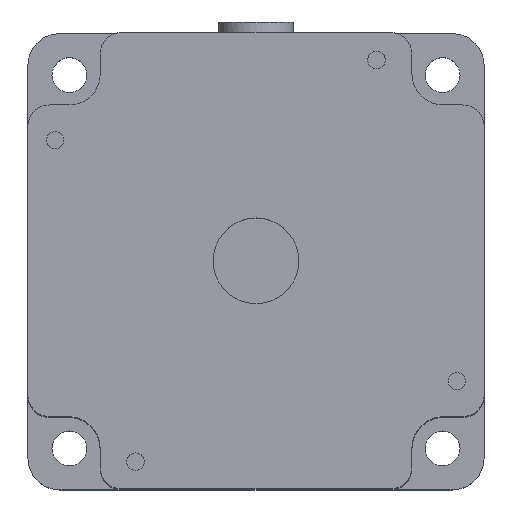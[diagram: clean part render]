
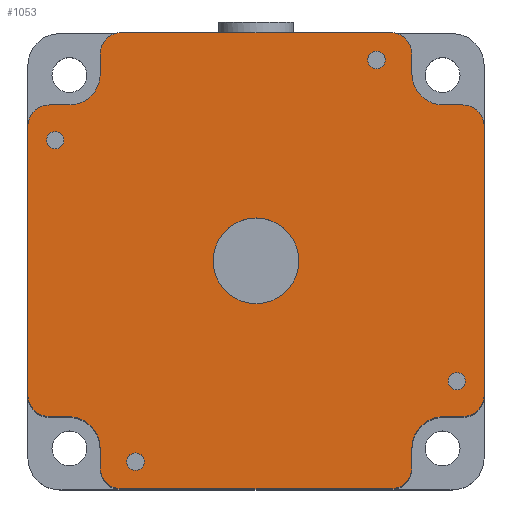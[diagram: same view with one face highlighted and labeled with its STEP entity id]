
A CAD part, top view. The second image highlights one B-rep face of the part: STEP entity #1053.
In plain terms, the highlighted planar face has unit normal (0, 0, 1).
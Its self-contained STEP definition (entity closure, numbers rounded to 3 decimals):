
#1053=ADVANCED_FACE('',(#6992,#6994,#6996,#6998,#7000,#7002),#7004,.T.);
#6992=FACE_BOUND('',#6993,.T.);
#6993=EDGE_LOOP('',(#11879,#11880,#11881,#11882,#11883,#11884,#11885,#11886,#11887,
#11888,#11889,#11890,#11891,#11892,#11893,#11894,#11895,#11896,#11897,#11898,#11899,
#11900,#11901,#11902));
#6994=FACE_BOUND('',#6995,.T.);
#6995=EDGE_LOOP('',(#11903));
#6996=FACE_BOUND('',#6997,.T.);
#6997=EDGE_LOOP('',(#11904));
#6998=FACE_BOUND('',#6999,.T.);
#6999=EDGE_LOOP('',(#11905));
#7000=FACE_BOUND('',#7001,.T.);
#7001=EDGE_LOOP('',(#11906));
#7002=FACE_BOUND('',#7003,.T.);
#7003=EDGE_LOOP('',(#11907));
#7004=PLANE('',#7005);
#7005=AXIS2_PLACEMENT_3D('',#7006,#7007,#7008);
#7006=CARTESIAN_POINT('',(0.,0.,113.));
#7007=DIRECTION('',(0.,0.,1.));
#7008=DIRECTION('',(1.,0.,0.));
#11879=ORIENTED_EDGE('',*,*,#15120,.F.);
#11880=ORIENTED_EDGE('',*,*,#15118,.T.);
#11881=ORIENTED_EDGE('',*,*,#15116,.F.);
#11882=ORIENTED_EDGE('',*,*,#15114,.T.);
#11883=ORIENTED_EDGE('',*,*,#15112,.T.);
#11884=ORIENTED_EDGE('',*,*,#15110,.T.);
#11885=ORIENTED_EDGE('',*,*,#15108,.F.);
#11886=ORIENTED_EDGE('',*,*,#15106,.T.);
#11887=ORIENTED_EDGE('',*,*,#15152,.F.);
#11888=ORIENTED_EDGE('',*,*,#15150,.T.);
#11889=ORIENTED_EDGE('',*,*,#15148,.T.);
#11890=ORIENTED_EDGE('',*,*,#15146,.T.);
#11891=ORIENTED_EDGE('',*,*,#15144,.F.);
#11892=ORIENTED_EDGE('',*,*,#15142,.T.);
#11893=ORIENTED_EDGE('',*,*,#15140,.F.);
#11894=ORIENTED_EDGE('',*,*,#15138,.T.);
#11895=ORIENTED_EDGE('',*,*,#15136,.T.);
#11896=ORIENTED_EDGE('',*,*,#15134,.T.);
#11897=ORIENTED_EDGE('',*,*,#15132,.F.);
#11898=ORIENTED_EDGE('',*,*,#15130,.T.);
#11899=ORIENTED_EDGE('',*,*,#15128,.F.);
#11900=ORIENTED_EDGE('',*,*,#15126,.T.);
#11901=ORIENTED_EDGE('',*,*,#15124,.T.);
#11902=ORIENTED_EDGE('',*,*,#15122,.T.);
#11903=ORIENTED_EDGE('',*,*,#15555,.T.);
#11904=ORIENTED_EDGE('',*,*,#15556,.T.);
#11905=ORIENTED_EDGE('',*,*,#15557,.T.);
#11906=ORIENTED_EDGE('',*,*,#15558,.T.);
#11907=ORIENTED_EDGE('',*,*,#15559,.T.);
#15106=EDGE_CURVE('',#17122,#17120,#17123,.T.);
#15108=EDGE_CURVE('',#17122,#17125,#17126,.T.);
#15110=EDGE_CURVE('',#17128,#17125,#17129,.F.);
#15112=EDGE_CURVE('',#17131,#17128,#17132,.F.);
#15114=EDGE_CURVE('',#17134,#17131,#17135,.F.);
#15116=EDGE_CURVE('',#17134,#17137,#17138,.T.);
#15118=EDGE_CURVE('',#17140,#17137,#17141,.T.);
#15120=EDGE_CURVE('',#17140,#17143,#17144,.F.);
#15122=EDGE_CURVE('',#17146,#17143,#17147,.F.);
#15124=EDGE_CURVE('',#17149,#17146,#17150,.F.);
#15126=EDGE_CURVE('',#17152,#17149,#17153,.F.);
#15128=EDGE_CURVE('',#17152,#17155,#17156,.T.);
#15130=EDGE_CURVE('',#17158,#17155,#17159,.T.);
#15132=EDGE_CURVE('',#17158,#17161,#17162,.F.);
#15134=EDGE_CURVE('',#17164,#17161,#17165,.F.);
#15136=EDGE_CURVE('',#17167,#17164,#17168,.F.);
#15138=EDGE_CURVE('',#17170,#17167,#17171,.F.);
#15140=EDGE_CURVE('',#17170,#17173,#17174,.T.);
#15142=EDGE_CURVE('',#17176,#17173,#17177,.T.);
#15144=EDGE_CURVE('',#17176,#17179,#17180,.T.);
#15146=EDGE_CURVE('',#17182,#17179,#17183,.F.);
#15148=EDGE_CURVE('',#17185,#17182,#17186,.F.);
#15150=EDGE_CURVE('',#17188,#17185,#17189,.F.);
#15152=EDGE_CURVE('',#17188,#17120,#17191,.T.);
#15555=EDGE_CURVE('',#17996,#17996,#17997,.F.);
#15556=EDGE_CURVE('',#17998,#17998,#17999,.F.);
#15557=EDGE_CURVE('',#18000,#18000,#18001,.F.);
#15558=EDGE_CURVE('',#18002,#18002,#18003,.F.);
#15559=EDGE_CURVE('',#18004,#18004,#18005,.F.);
#17120=VERTEX_POINT('',#20911);
#17122=VERTEX_POINT('',#20915);
#17123=LINE('',#20916,#20917);
#17125=VERTEX_POINT('',#20922);
#17126=CIRCLE('',#20923,4.);
#17128=VERTEX_POINT('',#20930);
#17129=LINE('',#20931,#20932);
#17131=VERTEX_POINT('',#20937);
#17132=CIRCLE('',#20938,5.9);
#17134=VERTEX_POINT('',#20945);
#17135=LINE('',#20946,#20947);
#17137=VERTEX_POINT('',#20952);
#17138=CIRCLE('',#20953,4.);
#17140=VERTEX_POINT('',#20960);
#17141=LINE('',#20961,#20962);
#17143=VERTEX_POINT('',#20967);
#17144=CIRCLE('',#20968,4.);
#17146=VERTEX_POINT('',#20975);
#17147=LINE('',#20976,#20977);
#17149=VERTEX_POINT('',#20982);
#17150=CIRCLE('',#20983,5.9);
#17152=VERTEX_POINT('',#20990);
#17153=LINE('',#20991,#20992);
#17155=VERTEX_POINT('',#20997);
#17156=CIRCLE('',#20998,4.);
#17158=VERTEX_POINT('',#21005);
#17159=LINE('',#21006,#21007);
#17161=VERTEX_POINT('',#21012);
#17162=CIRCLE('',#21013,4.);
#17164=VERTEX_POINT('',#21020);
#17165=LINE('',#21021,#21022);
#17167=VERTEX_POINT('',#21027);
#17168=CIRCLE('',#21028,5.9);
#17170=VERTEX_POINT('',#21035);
#17171=LINE('',#21036,#21037);
#17173=VERTEX_POINT('',#21042);
#17174=CIRCLE('',#21043,4.);
#17176=VERTEX_POINT('',#21050);
#17177=LINE('',#21051,#21052);
#17179=VERTEX_POINT('',#21057);
#17180=CIRCLE('',#21058,4.);
#17182=VERTEX_POINT('',#21065);
#17183=LINE('',#21066,#21067);
#17185=VERTEX_POINT('',#21072);
#17186=CIRCLE('',#21073,5.752);
#17188=VERTEX_POINT('',#21080);
#17189=LINE('',#21081,#21082);
#17191=CIRCLE('',#21087,4.);
#17996=VERTEX_POINT('',#22900);
#17997=CIRCLE('',#22901,1.621);
#17998=VERTEX_POINT('',#22905);
#17999=CIRCLE('',#22906,1.621);
#18000=VERTEX_POINT('',#22910);
#18001=CIRCLE('',#22911,1.621);
#18002=VERTEX_POINT('',#22915);
#18003=CIRCLE('',#22916,1.621);
#18004=VERTEX_POINT('',#22920);
#18005=CIRCLE('',#22921,8.);
#20911=CARTESIAN_POINT('',(-25.1,42.6,113.));
#20915=CARTESIAN_POINT('',(25.1,42.6,113.));
#20916=CARTESIAN_POINT('',(25.1,42.6,113.));
#20917=VECTOR('',#20918,1.);
#20918=DIRECTION('',(-1.,0.,0.));
#20922=CARTESIAN_POINT('',(29.1,38.6,113.));
#20923=AXIS2_PLACEMENT_3D('',#20924,#20925,#20926);
#20924=CARTESIAN_POINT('',(25.1,38.6,113.));
#20925=DIRECTION('',(0.,0.,-1.));
#20926=DIRECTION('',(0.,1.,0.));
#20930=CARTESIAN_POINT('',(29.1,35.,113.));
#20931=CARTESIAN_POINT('',(29.1,38.6,113.));
#20932=VECTOR('',#20933,1.);
#20933=DIRECTION('',(0.,-1.,0.));
#20937=CARTESIAN_POINT('',(35.,29.1,113.));
#20938=AXIS2_PLACEMENT_3D('',#20939,#20940,#20941);
#20939=CARTESIAN_POINT('',(35.,35.,113.));
#20940=DIRECTION('',(0.,0.,1.));
#20941=DIRECTION('',(-1.,0.,0.));
#20945=CARTESIAN_POINT('',(38.6,29.1,113.));
#20946=CARTESIAN_POINT('',(35.,29.1,113.));
#20947=VECTOR('',#20948,1.);
#20948=DIRECTION('',(1.,0.,0.));
#20952=CARTESIAN_POINT('',(42.6,25.1,113.));
#20953=AXIS2_PLACEMENT_3D('',#20954,#20955,#20956);
#20954=CARTESIAN_POINT('',(38.6,25.1,113.));
#20955=DIRECTION('',(0.,0.,-1.));
#20956=DIRECTION('',(0.,1.,0.));
#20960=CARTESIAN_POINT('',(42.6,-25.1,113.));
#20961=CARTESIAN_POINT('',(42.6,-25.1,113.));
#20962=VECTOR('',#20963,1.);
#20963=DIRECTION('',(0.,1.,0.));
#20967=CARTESIAN_POINT('',(38.6,-29.1,113.));
#20968=AXIS2_PLACEMENT_3D('',#20969,#20970,#20971);
#20969=CARTESIAN_POINT('',(38.6,-25.1,113.));
#20970=DIRECTION('',(0.,0.,1.));
#20971=DIRECTION('',(0.,-1.,0.));
#20975=CARTESIAN_POINT('',(35.,-29.1,113.));
#20976=CARTESIAN_POINT('',(38.6,-29.1,113.));
#20977=VECTOR('',#20978,1.);
#20978=DIRECTION('',(-1.,0.,0.));
#20982=CARTESIAN_POINT('',(29.1,-35.,113.));
#20983=AXIS2_PLACEMENT_3D('',#20984,#20985,#20986);
#20984=CARTESIAN_POINT('',(35.,-35.,113.));
#20985=DIRECTION('',(0.,-0.,1.));
#20986=DIRECTION('',(0.,1.,0.));
#20990=CARTESIAN_POINT('',(29.1,-38.6,113.));
#20991=CARTESIAN_POINT('',(29.1,-35.,113.));
#20992=VECTOR('',#20993,1.);
#20993=DIRECTION('',(0.,-1.,0.));
#20997=CARTESIAN_POINT('',(25.1,-42.6,113.));
#20998=AXIS2_PLACEMENT_3D('',#20999,#21000,#21001);
#20999=CARTESIAN_POINT('',(25.1,-38.6,113.));
#21000=DIRECTION('',(0.,0.,-1.));
#21001=DIRECTION('',(1.,0.,0.));
#21005=CARTESIAN_POINT('',(-25.1,-42.6,113.));
#21006=CARTESIAN_POINT('',(-25.1,-42.6,113.));
#21007=VECTOR('',#21008,1.);
#21008=DIRECTION('',(1.,0.,0.));
#21012=CARTESIAN_POINT('',(-29.1,-38.6,113.));
#21013=AXIS2_PLACEMENT_3D('',#21014,#21015,#21016);
#21014=CARTESIAN_POINT('',(-25.1,-38.6,113.));
#21015=DIRECTION('',(0.,0.,1.));
#21016=DIRECTION('',(-1.,0.,0.));
#21020=CARTESIAN_POINT('',(-29.1,-35.,113.));
#21021=CARTESIAN_POINT('',(-29.1,-38.6,113.));
#21022=VECTOR('',#21023,1.);
#21023=DIRECTION('',(0.,1.,0.));
#21027=CARTESIAN_POINT('',(-35.,-29.1,113.));
#21028=AXIS2_PLACEMENT_3D('',#21029,#21030,#21031);
#21029=CARTESIAN_POINT('',(-35.,-35.,113.));
#21030=DIRECTION('',(0.,0.,1.));
#21031=DIRECTION('',(1.,0.,0.));
#21035=CARTESIAN_POINT('',(-38.6,-29.1,113.));
#21036=CARTESIAN_POINT('',(-35.,-29.1,113.));
#21037=VECTOR('',#21038,1.);
#21038=DIRECTION('',(-1.,0.,0.));
#21042=CARTESIAN_POINT('',(-42.6,-25.1,113.));
#21043=AXIS2_PLACEMENT_3D('',#21044,#21045,#21046);
#21044=CARTESIAN_POINT('',(-38.6,-25.1,113.));
#21045=DIRECTION('',(0.,0.,-1.));
#21046=DIRECTION('',(0.,-1.,0.));
#21050=CARTESIAN_POINT('',(-42.6,25.1,113.));
#21051=CARTESIAN_POINT('',(-42.6,25.1,113.));
#21052=VECTOR('',#21053,1.);
#21053=DIRECTION('',(0.,-1.,0.));
#21057=CARTESIAN_POINT('',(-38.6,29.1,113.));
#21058=AXIS2_PLACEMENT_3D('',#21059,#21060,#21061);
#21059=CARTESIAN_POINT('',(-38.6,25.1,113.));
#21060=DIRECTION('',(0.,0.,-1.));
#21061=DIRECTION('',(-1.,0.,0.));
#21065=CARTESIAN_POINT('',(-35.,29.1,113.));
#21066=CARTESIAN_POINT('',(-38.6,29.1,113.));
#21067=VECTOR('',#21068,1.);
#21068=DIRECTION('',(1.,0.,0.));
#21072=CARTESIAN_POINT('',(-29.1,35.,113.));
#21073=AXIS2_PLACEMENT_3D('',#21074,#21075,#21076);
#21074=CARTESIAN_POINT('',(-34.85,34.85,113.));
#21075=DIRECTION('',(-0.,0.,1.));
#21076=DIRECTION('',(-0.026,-1.,0.));
#21080=CARTESIAN_POINT('',(-29.1,38.6,113.));
#21081=CARTESIAN_POINT('',(-29.1,35.,113.));
#21082=VECTOR('',#21083,1.);
#21083=DIRECTION('',(0.,1.,0.));
#21087=AXIS2_PLACEMENT_3D('',#21088,#21089,#21090);
#21088=CARTESIAN_POINT('',(-25.1,38.6,113.));
#21089=DIRECTION('',(0.,0.,-1.));
#21090=DIRECTION('',(-1.,0.,0.));
#22900=CARTESIAN_POINT('',(24.121,37.5,113.));
#22901=AXIS2_PLACEMENT_3D('',#22902,#22903,#22904);
#22902=CARTESIAN_POINT('',(22.5,37.5,113.));
#22903=DIRECTION('',(0.,0.,1.));
#22904=DIRECTION('',(1.,0.,0.));
#22905=CARTESIAN_POINT('',(-35.879,22.5,113.));
#22906=AXIS2_PLACEMENT_3D('',#22907,#22908,#22909);
#22907=CARTESIAN_POINT('',(-37.5,22.5,113.));
#22908=DIRECTION('',(0.,0.,1.));
#22909=DIRECTION('',(1.,0.,0.));
#22910=CARTESIAN_POINT('',(-20.879,-37.5,113.));
#22911=AXIS2_PLACEMENT_3D('',#22912,#22913,#22914);
#22912=CARTESIAN_POINT('',(-22.5,-37.5,113.));
#22913=DIRECTION('',(0.,0.,1.));
#22914=DIRECTION('',(1.,0.,0.));
#22915=CARTESIAN_POINT('',(39.121,-22.5,113.));
#22916=AXIS2_PLACEMENT_3D('',#22917,#22918,#22919);
#22917=CARTESIAN_POINT('',(37.5,-22.5,113.));
#22918=DIRECTION('',(0.,0.,1.));
#22919=DIRECTION('',(1.,0.,0.));
#22920=CARTESIAN_POINT('',(8.,0.,113.));
#22921=AXIS2_PLACEMENT_3D('',#22922,#22923,#22924);
#22922=CARTESIAN_POINT('',(0.,0.,113.));
#22923=DIRECTION('',(0.,0.,1.));
#22924=DIRECTION('',(1.,0.,0.));
